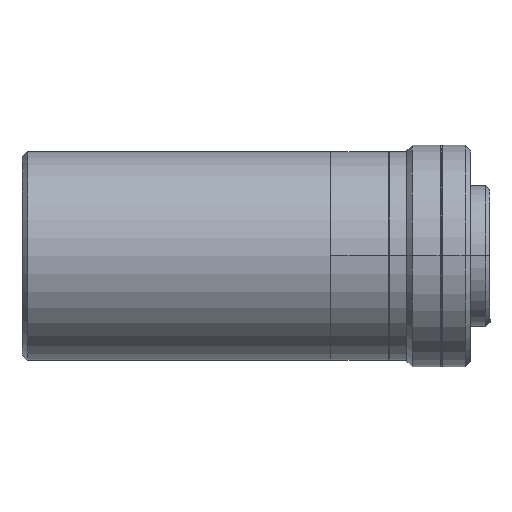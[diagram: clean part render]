
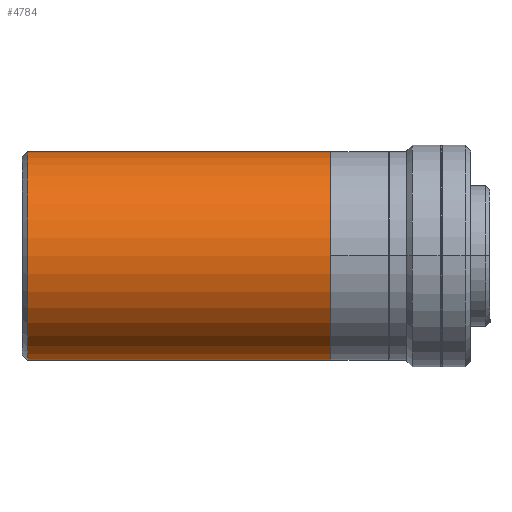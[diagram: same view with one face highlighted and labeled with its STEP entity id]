
A CAD part, top view. The second image highlights one B-rep face of the part: STEP entity #4784.
In plain terms, the highlighted face is a revolution surface.
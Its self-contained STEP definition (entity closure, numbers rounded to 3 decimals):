
#4784 = ADVANCED_FACE('',(#4785),#4800,.T.);
#4785 = FACE_BOUND('',#4786,.T.);
#4786 = EDGE_LOOP('',(#4787,#4813,#4828,#4844));
#4787 = ORIENTED_EDGE('',*,*,#4788,.F.);
#4788 = EDGE_CURVE('',#4789,#4791,#4793,.T.);
#4789 = VERTEX_POINT('',#4790);
#4790 = CARTESIAN_POINT('',(-0.5,-18.85,0.));
#4791 = VERTEX_POINT('',#4792);
#4792 = CARTESIAN_POINT('',(-0.5,18.85,0.));
#4793 = SURFACE_CURVE('',#4794,(#4799),.PCURVE_S1.);
#4794 = CIRCLE('',#4795,18.85);
#4795 = AXIS2_PLACEMENT_3D('',#4796,#4797,#4798);
#4796 = CARTESIAN_POINT('',(-0.5,0.,0.
    ));
#4797 = DIRECTION('',(-1.,0.,0.));
#4798 = DIRECTION('',(0.,-1.,0.));
#4799 = PCURVE('',#4800,#4808);
#4800 = SURFACE_OF_REVOLUTION('',#4801,#4805);
#4801 = LINE('',#4802,#4803);
#4802 = CARTESIAN_POINT('',(-55.16,-18.85,0.));
#4803 = VECTOR('',#4804,1.);
#4804 = DIRECTION('',(1.,0.,0.));
#4805 = AXIS1_PLACEMENT('',#4806,#4807);
#4806 = CARTESIAN_POINT('',(0.,0.,0.));
#4807 = DIRECTION('',(-1.,0.,0.));
#4808 = DEFINITIONAL_REPRESENTATION('',(#4809),#4812);
#4809 = B_SPLINE_CURVE_WITH_KNOTS('',1,(#4810,#4811),.UNSPECIFIED.,.F.,
  .F.,(2,2),(0.,3.142),.PIECEWISE_BEZIER_KNOTS.);
#4810 = CARTESIAN_POINT('',(0.,54.66));
#4811 = CARTESIAN_POINT('',(3.142,54.66));
#4812 = ( GEOMETRIC_REPRESENTATION_CONTEXT(2) 
PARAMETRIC_REPRESENTATION_CONTEXT() REPRESENTATION_CONTEXT('',''
  ) );
#4813 = ORIENTED_EDGE('',*,*,#4814,.F.);
#4814 = EDGE_CURVE('',#4815,#4789,#4817,.T.);
#4815 = VERTEX_POINT('',#4816);
#4816 = CARTESIAN_POINT('',(-55.16,-18.85,0.));
#4817 = SURFACE_CURVE('',#4818,(#4822),.PCURVE_S1.);
#4818 = LINE('',#4819,#4820);
#4819 = CARTESIAN_POINT('',(-55.16,-18.85,0.));
#4820 = VECTOR('',#4821,1.);
#4821 = DIRECTION('',(1.,0.,0.));
#4822 = PCURVE('',#4800,#4823);
#4823 = DEFINITIONAL_REPRESENTATION('',(#4824),#4827);
#4824 = B_SPLINE_CURVE_WITH_KNOTS('',1,(#4825,#4826),.UNSPECIFIED.,.F.,
  .F.,(2,2),(0.,54.66),.PIECEWISE_BEZIER_KNOTS.);
#4825 = CARTESIAN_POINT('',(0.,0.));
#4826 = CARTESIAN_POINT('',(0.,54.66));
#4827 = ( GEOMETRIC_REPRESENTATION_CONTEXT(2) 
PARAMETRIC_REPRESENTATION_CONTEXT() REPRESENTATION_CONTEXT('',''
  ) );
#4828 = ORIENTED_EDGE('',*,*,#4829,.F.);
#4829 = EDGE_CURVE('',#4830,#4815,#4832,.T.);
#4830 = VERTEX_POINT('',#4831);
#4831 = CARTESIAN_POINT('',(-55.16,18.85,0.));
#4832 = SURFACE_CURVE('',#4833,(#4838),.PCURVE_S1.);
#4833 = CIRCLE('',#4834,18.85);
#4834 = AXIS2_PLACEMENT_3D('',#4835,#4836,#4837);
#4835 = CARTESIAN_POINT('',(-55.16,0.,0.));
#4836 = DIRECTION('',(1.,0.,0.));
#4837 = DIRECTION('',(0.,1.,0.));
#4838 = PCURVE('',#4800,#4839);
#4839 = DEFINITIONAL_REPRESENTATION('',(#4840),#4843);
#4840 = B_SPLINE_CURVE_WITH_KNOTS('',1,(#4841,#4842),.UNSPECIFIED.,.F.,
  .F.,(2,2),(0.,3.142),.PIECEWISE_BEZIER_KNOTS.);
#4841 = CARTESIAN_POINT('',(3.142,0.));
#4842 = CARTESIAN_POINT('',(0.,0.));
#4843 = ( GEOMETRIC_REPRESENTATION_CONTEXT(2) 
PARAMETRIC_REPRESENTATION_CONTEXT() REPRESENTATION_CONTEXT('',''
  ) );
#4844 = ORIENTED_EDGE('',*,*,#4845,.F.);
#4845 = EDGE_CURVE('',#4791,#4830,#4846,.T.);
#4846 = SURFACE_CURVE('',#4847,(#4851),.PCURVE_S1.);
#4847 = LINE('',#4848,#4849);
#4848 = CARTESIAN_POINT('',(-0.5,18.85,0.));
#4849 = VECTOR('',#4850,1.);
#4850 = DIRECTION('',(-1.,0.,0.));
#4851 = PCURVE('',#4800,#4852);
#4852 = DEFINITIONAL_REPRESENTATION('',(#4853),#4856);
#4853 = B_SPLINE_CURVE_WITH_KNOTS('',1,(#4854,#4855),.UNSPECIFIED.,.F.,
  .F.,(2,2),(0.,54.66),.PIECEWISE_BEZIER_KNOTS.);
#4854 = CARTESIAN_POINT('',(3.142,54.66));
#4855 = CARTESIAN_POINT('',(3.142,0.));
#4856 = ( GEOMETRIC_REPRESENTATION_CONTEXT(2) 
PARAMETRIC_REPRESENTATION_CONTEXT() REPRESENTATION_CONTEXT('',''
  ) );
